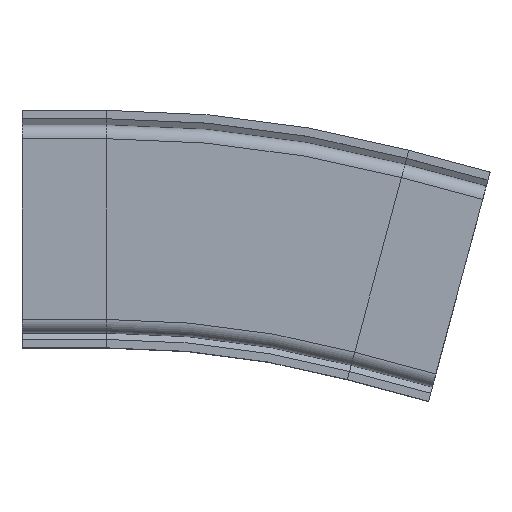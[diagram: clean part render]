
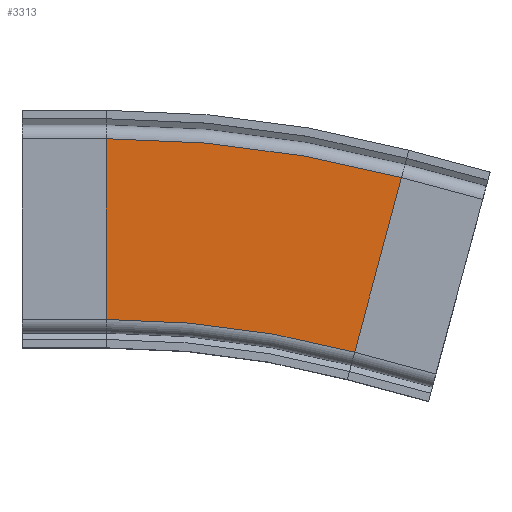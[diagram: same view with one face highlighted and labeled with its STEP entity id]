
A CAD part, top view. The second image highlights one B-rep face of the part: STEP entity #3313.
In plain terms, the highlighted planar face has unit normal (0, 0, 1).
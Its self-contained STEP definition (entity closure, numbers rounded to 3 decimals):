
#1 = DIRECTION ( 'NONE',  ( 0.259, 0.966, 0. ) ) ;
#386 = ORIENTED_EDGE ( 'NONE', *, *, #1912, .T. ) ;
#562 = DIRECTION ( 'NONE',  ( 0., 0., -1. ) ) ;
#570 = VERTEX_POINT ( 'NONE', #5608 ) ;
#735 = CIRCLE ( 'NONE', #3015, 543. ) ;
#864 = CIRCLE ( 'NONE', #3167, 457. ) ;
#1254 = CARTESIAN_POINT ( 'NONE',  ( 40., -500., 42.5 ) ) ;
#1361 = DIRECTION ( 'NONE',  ( -1., 0., 0. ) ) ;
#1444 = AXIS2_PLACEMENT_3D ( 'NONE', #3628, #562, #1361 ) ;
#1692 = DIRECTION ( 'NONE',  ( 1., 0., 0. ) ) ;
#1701 = CARTESIAN_POINT ( 'NONE',  ( 158.28, -58.572, 42.5 ) ) ;
#1748 = CARTESIAN_POINT ( 'NONE',  ( 40., -500., 42.5 ) ) ;
#1762 = DIRECTION ( 'NONE',  ( 0., 0., 1. ) ) ;
#1881 = VECTOR ( 'NONE', #1, 1000. ) ;
#1889 = VECTOR ( 'NONE', #2519, 1000. ) ;
#1912 = EDGE_CURVE ( 'NONE', #570, #3065, #4783, .T. ) ;
#2039 = EDGE_CURVE ( 'NONE', #4085, #2608, #2361, .T. ) ;
#2180 = DIRECTION ( 'NONE',  ( 1., 0., 0. ) ) ;
#2361 = LINE ( 'NONE', #1701, #1881 ) ;
#2519 = DIRECTION ( 'NONE',  ( 0., -1., 0. ) ) ;
#2608 = VERTEX_POINT ( 'NONE', #4456 ) ;
#2611 = ORIENTED_EDGE ( 'NONE', *, *, #3069, .T. ) ;
#2953 = ORIENTED_EDGE ( 'NONE', *, *, #3224, .F. ) ;
#3015 = AXIS2_PLACEMENT_3D ( 'NONE', #1254, #5154, #1692 ) ;
#3057 = CARTESIAN_POINT ( 'NONE',  ( 158.28, -58.572, 42.5 ) ) ;
#3065 = VERTEX_POINT ( 'NONE', #4268 ) ;
#3069 = EDGE_CURVE ( 'NONE', #2608, #570, #735, .T. ) ;
#3167 = AXIS2_PLACEMENT_3D ( 'NONE', #1748, #1762, #2180 ) ;
#3224 = EDGE_CURVE ( 'NONE', #4085, #3065, #864, .T. ) ;
#3313 = ADVANCED_FACE ( 'NONE', ( #4092 ), #4071, .F. ) ;
#3628 = CARTESIAN_POINT ( 'NONE',  ( 158.28, -58.572, 42.5 ) ) ;
#4071 = PLANE ( 'NONE',  #1444 ) ;
#4085 = VERTEX_POINT ( 'NONE', #3057 ) ;
#4092 = FACE_OUTER_BOUND ( 'NONE', #5044, .T. ) ;
#4268 = CARTESIAN_POINT ( 'NONE',  ( 40., -43., 42.5 ) ) ;
#4456 = CARTESIAN_POINT ( 'NONE',  ( 180.539, 24.498, 42.5 ) ) ;
#4783 = LINE ( 'NONE', #5628, #1889 ) ;
#4855 = ORIENTED_EDGE ( 'NONE', *, *, #2039, .T. ) ;
#5044 = EDGE_LOOP ( 'NONE', ( #386, #2953, #4855, #2611 ) ) ;
#5154 = DIRECTION ( 'NONE',  ( 0., 0., 1. ) ) ;
#5608 = CARTESIAN_POINT ( 'NONE',  ( 40., 43., 42.5 ) ) ;
#5628 = CARTESIAN_POINT ( 'NONE',  ( 40., 0., 42.5 ) ) ;
